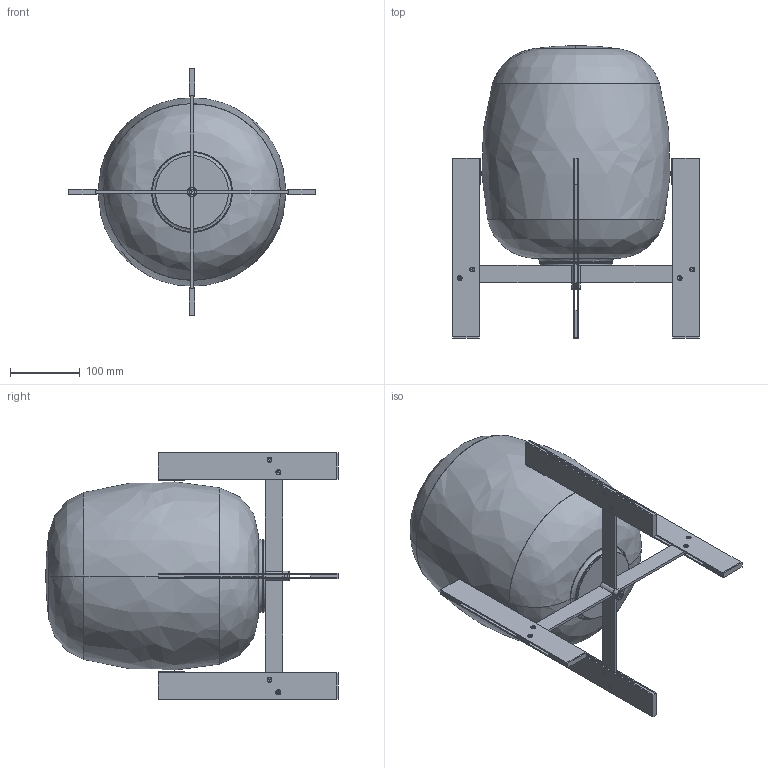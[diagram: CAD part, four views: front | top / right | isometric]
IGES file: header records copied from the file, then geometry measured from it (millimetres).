
Start section: SolidWorks IGES file using analytic representation for surfaces
Global section: file name: C:\Users\Andrea.Obradors\Desktop\Cesta Metálica_3D.IGS; native system: SolidWorks 2015; preprocessor: SolidWorks 2015; author: Andrea.Obradors; date: 160311.114505; units: millimetre
Bounding box: 352 x 417.75 x 352 mm (x, y, z)
Surface area: 512837.1 mm2 (no closed solid volume)
Topology: 0 solids, 0 shells, 341 faces, 4540 edges, 4539 vertices
Faces by surface type: bspline 260, revolution 81
